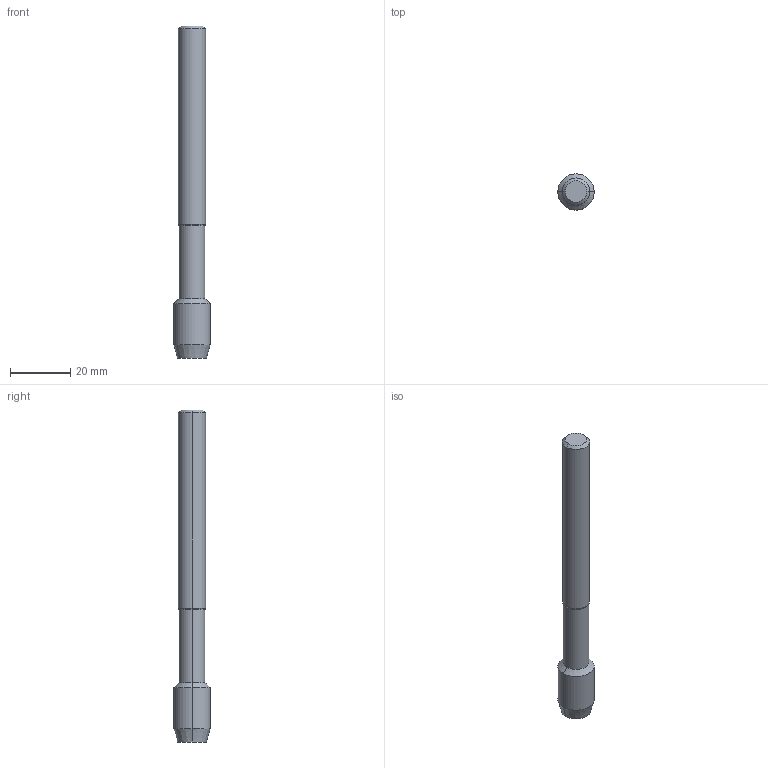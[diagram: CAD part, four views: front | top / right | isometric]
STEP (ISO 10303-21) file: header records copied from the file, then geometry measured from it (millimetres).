
FILE_DESCRIPTION (( 'STEP AP214' ), '1' );
FILE_NAME ('1717.0120.00_3D-model.step', '2023-08-21T10:10:10', ( '' ), ( '' ), 'SwSTEP 2.0', 'SolidWorks 2020', '' );
FILE_SCHEMA (( 'AUTOMOTIVE_DESIGN' ));
Length unit declared in the file: millimetre
Products named in the file (3): 1717.0120.00_3D-model; CUT-3D^Baugr116; NOCUT-3D^Baugr116
Assembly tree (2 placements, depth 2):
  1717.0120.00_3D-model
    CUT-3D^Baugr116
    NOCUT-3D^Baugr116
Bounding box: 12 x 12 x 110 mm (x, y, z)
Volume: 7687.1 mm3; surface area: 4562.3 mm2
Topology: 2 solids, 2 shells, 24 faces, 46 edges, 26 vertices
Faces by surface type: cylinder 10, cone 8, plane 4, torus 2
Entity records: 732 total; most frequent: DIRECTION 138, CARTESIAN_POINT 104, ORIENTED_EDGE 92, AXIS2_PLACEMENT_3D 60, EDGE_CURVE 46, CIRCLE 28, VERTEX_POINT 26, EDGE_LOOP 26
